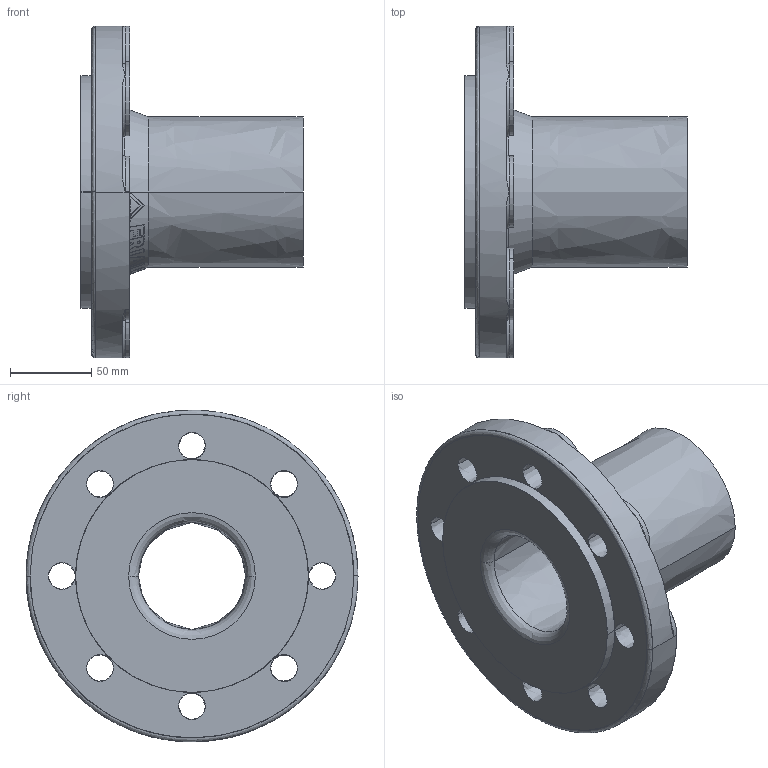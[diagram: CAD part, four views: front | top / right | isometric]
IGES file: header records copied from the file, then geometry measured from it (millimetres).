
Start section:  PTC IGES file: efl_d090_dn80_01.igs
Global section: file name: efl_d090_dn80_01.igs; native system: Pro/ENGINEER by Parametric Technology Corporation; preprocessor: 2011490; author: mtunjic; organization: Unknown; date: 20130819.142437; units: millimetre
Bounding box: 136.5 x 204 x 204 mm (x, y, z)
Surface area: 158339.2 mm2 (no closed solid volume)
Topology: 0 solids, 0 shells, 429 faces, 2138 edges, 2138 vertices
Faces by surface type: bspline 429
